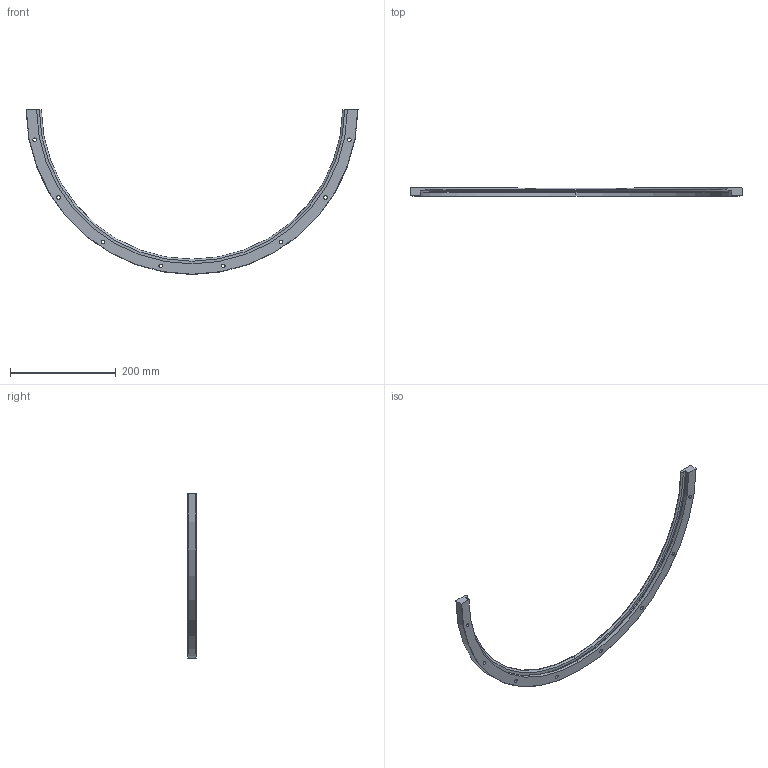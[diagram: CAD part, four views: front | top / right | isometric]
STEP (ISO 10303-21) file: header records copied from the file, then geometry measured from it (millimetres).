
FILE_DESCRIPTION(('STEP AP203'),'1');
FILE_NAME('rim_627_r180.stp','2021-08-30T06:00:33',('TraceParts'),('TraceParts S.A.'),'Spatial InterOp 3D',' ',' ');
FILE_SCHEMA(('CONFIG_CONTROL_DESIGN'));
Length unit declared in the file: millimetre
Products named in the file (1): 1
Bounding box: 627.49 x 15.5 x 311.75 mm (x, y, z)
Volume: 324791.4 mm3; surface area: 84067.1 mm2
Topology: 1 solids, 1 shells, 64 faces, 157 edges, 103 vertices
Faces by surface type: cylinder 38, plane 14, cone 8, torus 4
Entity records: 2029 total; most frequent: CARTESIAN_POINT 369, DIRECTION 367, ORIENTED_EDGE 314, AXIS2_PLACEMENT_3D 157, EDGE_CURVE 157, VERTEX_POINT 103, CIRCLE 92, EDGE_LOOP 88
